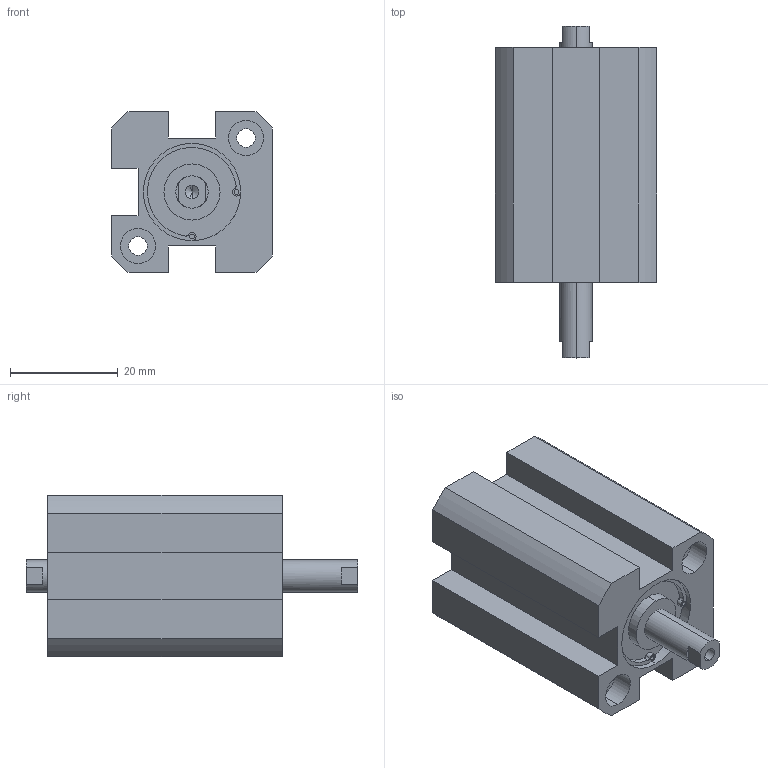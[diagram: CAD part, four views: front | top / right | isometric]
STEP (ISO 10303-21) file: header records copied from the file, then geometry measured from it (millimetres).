
FILE_DESCRIPTION (( 'STEP AP203' ), '1' );
FILE_NAME ('XG#7-16-10.STEP', '2016-05-24T01:56:33', ( '' ), ( '' ), 'SwSTEP 2.0', 'SolidWorks 2014', '' );
FILE_SCHEMA (( 'CONFIG_CONTROL_DESIGN' ));
Length unit declared in the file: millimetre
Products named in the file (1): XG#7-16-10
Bounding box: 30 x 61.5 x 30 mm (x, y, z)
Volume: 30803.3 mm3; surface area: 9874.9 mm2
Topology: 1 solids, 1 shells, 108 faces, 266 edges, 170 vertices
Faces by surface type: cylinder 58, plane 42, cone 8
Entity records: 3265 total; most frequent: DIRECTION 602, CARTESIAN_POINT 537, ORIENTED_EDGE 516, EDGE_CURVE 258, AXIS2_PLACEMENT_3D 235, VERTEX_POINT 170, LINE 132, VECTOR 132
